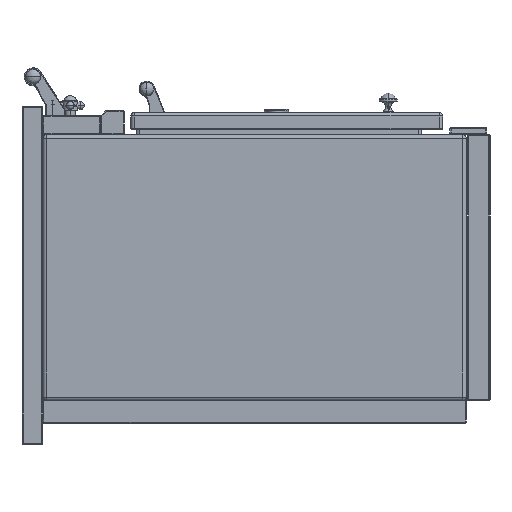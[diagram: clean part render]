
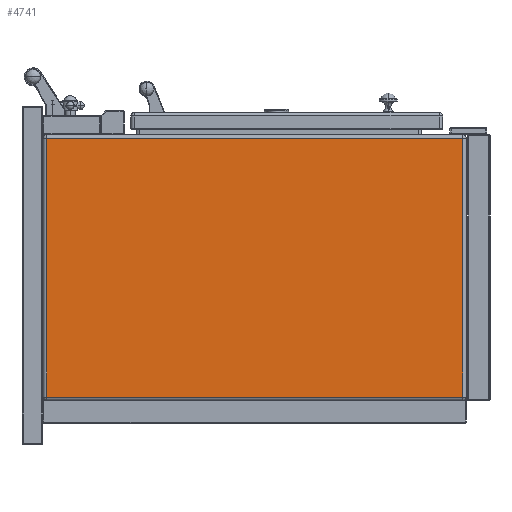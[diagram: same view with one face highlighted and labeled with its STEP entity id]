
A CAD part, left-side view. The second image highlights one B-rep face of the part: STEP entity #4741.
In plain terms, the highlighted planar face has unit normal (-1, 0, 0).
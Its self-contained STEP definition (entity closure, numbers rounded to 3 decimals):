
#1195=DIRECTION('',(0.,1.,0.));
#1196=VECTOR('',#1195,801.);
#1197=CARTESIAN_POINT('',(-750.,52.5,249.));
#1198=LINE('',#1197,#1196);
#1199=DIRECTION('',(0.,0.,1.));
#1200=VECTOR('',#1199,498.);
#1201=CARTESIAN_POINT('',(-750.,52.5,-249.));
#1202=LINE('',#1201,#1200);
#1203=DIRECTION('',(0.,-1.,0.));
#1204=VECTOR('',#1203,801.);
#1205=CARTESIAN_POINT('',(-750.,853.5,-249.));
#1206=LINE('',#1205,#1204);
#1207=DIRECTION('',(0.,0.,-1.));
#1208=VECTOR('',#1207,498.);
#1209=CARTESIAN_POINT('',(-750.,853.5,249.));
#1210=LINE('',#1209,#1208);
#2598=CARTESIAN_POINT('',(-750.,52.5,249.));
#2599=CARTESIAN_POINT('',(-750.,853.5,249.));
#2600=VERTEX_POINT('',#2598);
#2601=VERTEX_POINT('',#2599);
#2602=CARTESIAN_POINT('',(-750.,52.5,-249.));
#2603=VERTEX_POINT('',#2602);
#2626=CARTESIAN_POINT('',(-750.,853.5,-249.));
#2627=VERTEX_POINT('',#2626);
#4727=CARTESIAN_POINT('',(-750.,0.,0.));
#4728=DIRECTION('',(1.,0.,0.));
#4729=DIRECTION('',(0.,0.,-1.));
#4730=AXIS2_PLACEMENT_3D('',#4727,#4728,#4729);
#4731=PLANE('',#4730);
#4733=ORIENTED_EDGE('',*,*,#4732,.F.);
#4735=ORIENTED_EDGE('',*,*,#4734,.F.);
#4736=ORIENTED_EDGE('',*,*,#4718,.F.);
#4738=ORIENTED_EDGE('',*,*,#4737,.F.);
#4739=EDGE_LOOP('',(#4733,#4735,#4736,#4738));
#4740=FACE_OUTER_BOUND('',#4739,.F.);
#4718=EDGE_CURVE('',#2627,#2603,#1206,.T.);
#4732=EDGE_CURVE('',#2600,#2601,#1198,.T.);
#4734=EDGE_CURVE('',#2603,#2600,#1202,.T.);
#4737=EDGE_CURVE('',#2601,#2627,#1210,.T.);
#4741=ADVANCED_FACE('',(#4740),#4731,.F.);
